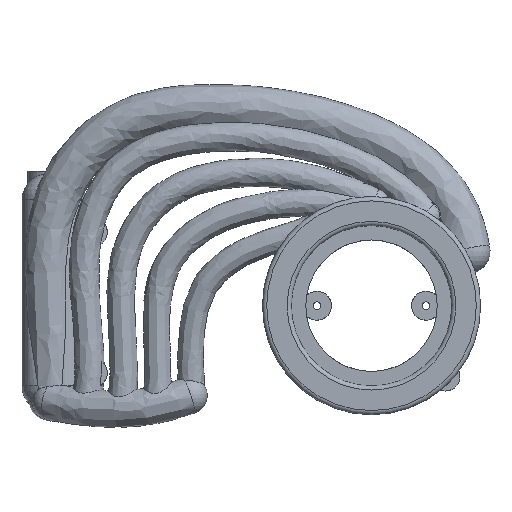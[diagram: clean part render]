
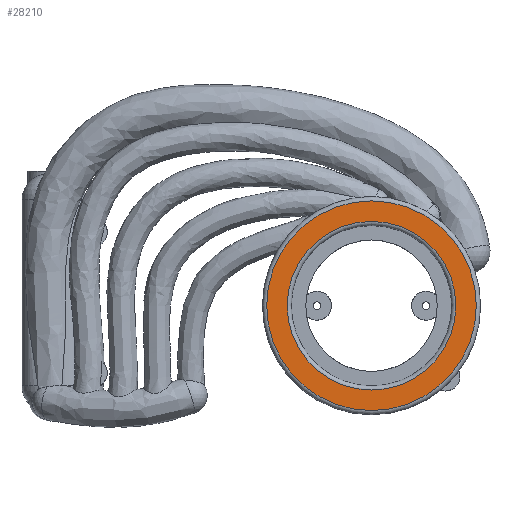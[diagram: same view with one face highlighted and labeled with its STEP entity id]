
A CAD part, front view. The second image highlights one B-rep face of the part: STEP entity #28210.
In plain terms, the highlighted planar face has unit normal (0, -1, 0).
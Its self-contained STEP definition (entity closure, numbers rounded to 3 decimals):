
#43 = TOROIDAL_SURFACE('',#44,32.7,1.3);
#44 = AXIS2_PLACEMENT_3D('',#45,#46,#47);
#45 = CARTESIAN_POINT('',(31.,-43.7,43.));
#46 = DIRECTION('',(-0.,-1.,-0.));
#47 = DIRECTION('',(0.,-0.,1.));
#9194 = VERTEX_POINT('',#9195);
#9195 = CARTESIAN_POINT('',(31.,-45.,75.7));
#9217 = EDGE_CURVE('',#9194,#9194,#9218,.T.);
#9218 = SURFACE_CURVE('',#9219,(#9224,#9231),.PCURVE_S1.);
#9219 = CIRCLE('',#9220,32.7);
#9220 = AXIS2_PLACEMENT_3D('',#9221,#9222,#9223);
#9221 = CARTESIAN_POINT('',(31.,-45.,43.));
#9222 = DIRECTION('',(0.,1.,0.));
#9223 = DIRECTION('',(0.,-0.,1.));
#9224 = PCURVE('',#43,#9225);
#9225 = DEFINITIONAL_REPRESENTATION('',(#9226),#9230);
#9226 = LINE('',#9227,#9228);
#9227 = CARTESIAN_POINT('',(6.283,1.571));
#9228 = VECTOR('',#9229,1.);
#9229 = DIRECTION('',(-1.,0.));
#9230 = ( GEOMETRIC_REPRESENTATION_CONTEXT(2) 
PARAMETRIC_REPRESENTATION_CONTEXT() REPRESENTATION_CONTEXT('2D SPACE',''
  ) );
#9231 = PCURVE('',#9232,#9237);
#9232 = PLANE('',#9233);
#9233 = AXIS2_PLACEMENT_3D('',#9234,#9235,#9236);
#9234 = CARTESIAN_POINT('',(31.,-45.,43.));
#9235 = DIRECTION('',(0.,1.,0.));
#9236 = DIRECTION('',(0.,-0.,1.));
#9237 = DEFINITIONAL_REPRESENTATION('',(#9238),#9242);
#9238 = CIRCLE('',#9239,32.7);
#9239 = AXIS2_PLACEMENT_2D('',#9240,#9241);
#9240 = CARTESIAN_POINT('',(0.,0.));
#9241 = DIRECTION('',(1.,0.));
#9242 = ( GEOMETRIC_REPRESENTATION_CONTEXT(2) 
PARAMETRIC_REPRESENTATION_CONTEXT() REPRESENTATION_CONTEXT('2D SPACE',''
  ) );
#28210 = ADVANCED_FACE('',(#28211,#28214),#9232,.F.);
#28211 = FACE_BOUND('',#28212,.F.);
#28212 = EDGE_LOOP('',(#28213));
#28213 = ORIENTED_EDGE('',*,*,#9217,.T.);
#28214 = FACE_BOUND('',#28215,.F.);
#28215 = EDGE_LOOP('',(#28216));
#28216 = ORIENTED_EDGE('',*,*,#28217,.F.);
#28217 = EDGE_CURVE('',#28218,#28218,#28220,.T.);
#28218 = VERTEX_POINT('',#28219);
#28219 = CARTESIAN_POINT('',(31.,-45.,69.3));
#28220 = SURFACE_CURVE('',#28221,(#28226,#28233),.PCURVE_S1.);
#28221 = CIRCLE('',#28222,26.3);
#28222 = AXIS2_PLACEMENT_3D('',#28223,#28224,#28225);
#28223 = CARTESIAN_POINT('',(31.,-45.,43.));
#28224 = DIRECTION('',(0.,1.,0.));
#28225 = DIRECTION('',(0.,-0.,1.));
#28226 = PCURVE('',#9232,#28227);
#28227 = DEFINITIONAL_REPRESENTATION('',(#28228),#28232);
#28228 = CIRCLE('',#28229,26.3);
#28229 = AXIS2_PLACEMENT_2D('',#28230,#28231);
#28230 = CARTESIAN_POINT('',(0.,0.));
#28231 = DIRECTION('',(1.,0.));
#28232 = ( GEOMETRIC_REPRESENTATION_CONTEXT(2) 
PARAMETRIC_REPRESENTATION_CONTEXT() REPRESENTATION_CONTEXT('2D SPACE',''
  ) );
#28233 = PCURVE('',#28234,#28239);
#28234 = TOROIDAL_SURFACE('',#28235,26.3,1.3);
#28235 = AXIS2_PLACEMENT_3D('',#28236,#28237,#28238);
#28236 = CARTESIAN_POINT('',(31.,-43.7,43.));
#28237 = DIRECTION('',(-0.,-1.,-0.));
#28238 = DIRECTION('',(0.,-0.,1.));
#28239 = DEFINITIONAL_REPRESENTATION('',(#28240),#28244);
#28240 = LINE('',#28241,#28242);
#28241 = CARTESIAN_POINT('',(6.283,1.571));
#28242 = VECTOR('',#28243,1.);
#28243 = DIRECTION('',(-1.,0.));
#28244 = ( GEOMETRIC_REPRESENTATION_CONTEXT(2) 
PARAMETRIC_REPRESENTATION_CONTEXT() REPRESENTATION_CONTEXT('2D SPACE',''
  ) );
